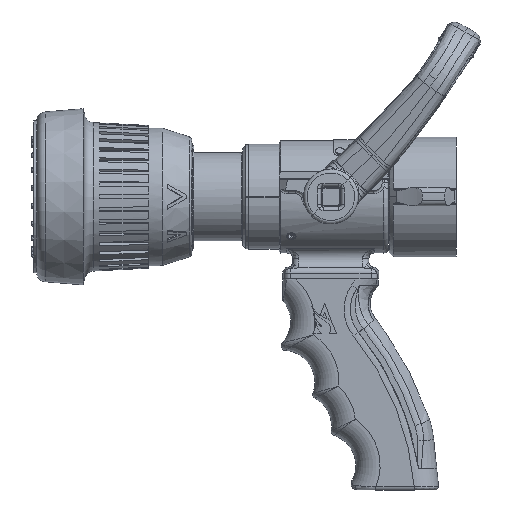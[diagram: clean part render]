
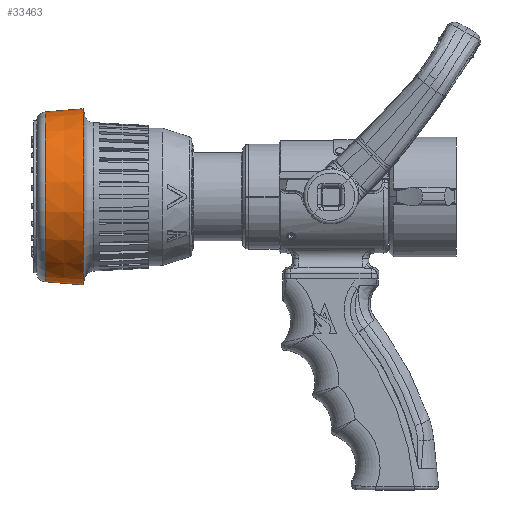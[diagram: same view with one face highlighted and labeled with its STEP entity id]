
A CAD part, top view. The second image highlights one B-rep face of the part: STEP entity #33463.
In plain terms, the highlighted conical face has half-angle 4.621 degrees and reference radius 45.236 mm.
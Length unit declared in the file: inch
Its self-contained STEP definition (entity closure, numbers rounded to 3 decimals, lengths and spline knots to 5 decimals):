
#21844=DIRECTION('',(0.997,-0.081,0.));
#21845=VECTOR('',#21844,0.78328);
#21846=CARTESIAN_POINT('',(-5.88016,-2.18689,0.));
#21847=LINE('',#21846,#21845);
#21848=DIRECTION('',(0.997,0.081,0.));
#21849=VECTOR('',#21848,0.78328);
#21850=CARTESIAN_POINT('',(-5.88016,1.31189,0.));
#21851=LINE('',#21850,#21849);
#21857=CARTESIAN_POINT('',(-5.88016,-0.4375,0.));
#21858=DIRECTION('',(-1.,0.,0.));
#21859=DIRECTION('',(0.,-1.,0.));
#21860=AXIS2_PLACEMENT_3D('',#21857,#21858,#21859);
#21862=CARTESIAN_POINT('',(-5.09943,-0.4375,0.));
#21863=DIRECTION('',(-1.,0.,0.));
#21864=DIRECTION('',(0.,-1.,0.));
#21865=AXIS2_PLACEMENT_3D('',#21862,#21863,#21864);
#27482=CARTESIAN_POINT('',(-5.88016,-2.18689,0.));
#27483=VERTEX_POINT('',#27482);
#27484=CARTESIAN_POINT('',(-5.09943,-2.25,0.));
#27485=VERTEX_POINT('',#27484);
#27494=CARTESIAN_POINT('',(-5.88016,1.31189,0.));
#27495=VERTEX_POINT('',#27494);
#27496=CARTESIAN_POINT('',(-5.09943,1.375,0.));
#27497=VERTEX_POINT('',#27496);
#33451=CARTESIAN_POINT('',(-5.4898,-0.4375,0.));
#33452=DIRECTION('',(1.,0.,0.));
#33453=DIRECTION('',(0.,-1.,0.));
#33454=AXIS2_PLACEMENT_3D('',#33451,#33452,#33453);
#33455=CONICAL_SURFACE('',#33454,1.78095,4.621);
#33456=ORIENTED_EDGE('',*,*,#33441,.F.);
#33457=ORIENTED_EDGE('',*,*,#33418,.T.);
#33458=ORIENTED_EDGE('',*,*,#33445,.T.);
#33460=ORIENTED_EDGE('',*,*,#33459,.F.);
#33461=EDGE_LOOP('',(#33456,#33457,#33458,#33460));
#33462=FACE_OUTER_BOUND('',#33461,.F.);
#33463=ADVANCED_FACE('',(#33462),#33455,.T.);
#21861=CIRCLE('',#21860,1.74939);
#21866=CIRCLE('',#21865,1.8125);
#33418=EDGE_CURVE('',#27483,#27495,#21861,.T.);
#33441=EDGE_CURVE('',#27483,#27485,#21847,.T.);
#33445=EDGE_CURVE('',#27495,#27497,#21851,.T.);
#33459=EDGE_CURVE('',#27485,#27497,#21866,.T.);
